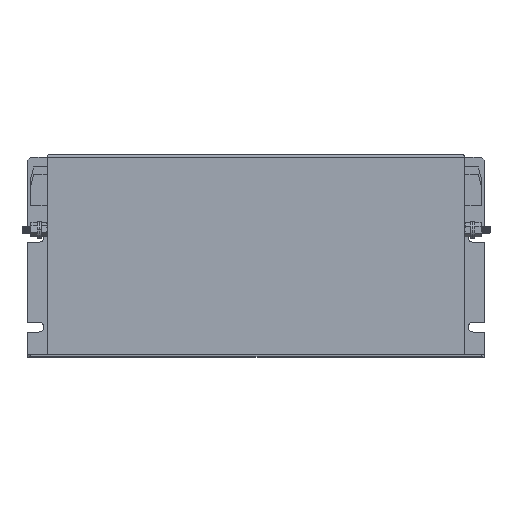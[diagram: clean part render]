
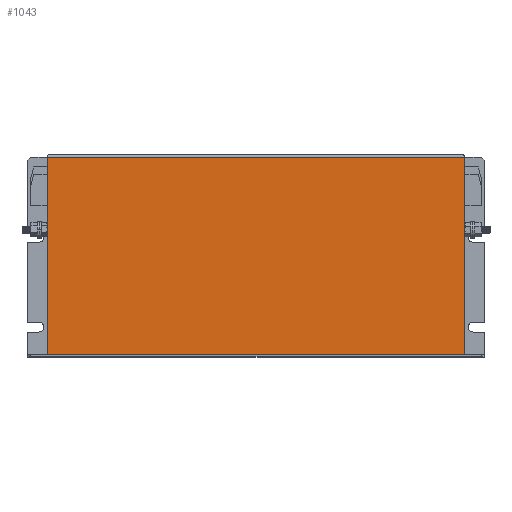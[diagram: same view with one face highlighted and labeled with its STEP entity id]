
A CAD part, top view. The second image highlights one B-rep face of the part: STEP entity #1043.
In plain terms, the highlighted planar face has unit normal (0, 0, 1).
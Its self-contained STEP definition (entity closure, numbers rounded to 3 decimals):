
#4 = ORIENTED_EDGE ( 'NONE', *, *, #18, .T. ) ;
#18 = EDGE_CURVE ( 'NONE', #1048, #929, #3780, .T. ) ;
#21 = ORIENTED_EDGE ( 'NONE', *, *, #876, .T. ) ;
#22 = ORIENTED_EDGE ( 'NONE', *, *, #928, .T. ) ;
#868 = VERTEX_POINT ( 'NONE', #5197 ) ;
#874 = VERTEX_POINT ( 'NONE', #5187 ) ;
#876 = EDGE_CURVE ( 'NONE', #868, #874, #3334, .T. ) ;
#928 = EDGE_CURVE ( 'NONE', #929, #868, #5701, .T. ) ;
#929 = VERTEX_POINT ( 'NONE', #5808 ) ;
#1043 = ADVANCED_FACE ( 'NONE', ( #6837 ), #6835, .F. ) ;
#1045 = EDGE_LOOP ( 'NONE', ( #1147, #4, #22, #21 ) ) ;
#1046 = EDGE_CURVE ( 'NONE', #1048, #874, #6833, .T. ) ;
#1048 = VERTEX_POINT ( 'NONE', #6820 ) ;
#1147 = ORIENTED_EDGE ( 'NONE', *, *, #1046, .F. ) ;
#3327 = CARTESIAN_POINT ( 'NONE',  ( 13., 1.5, 1.5 ) ) ;
#3334 = LINE ( 'NONE', #3327, #5577 ) ;
#3777 = DIRECTION ( 'NONE',  ( -1., 0., 0. ) ) ;
#3778 = VECTOR ( 'NONE', #3777, 1000. ) ;
#3779 = CARTESIAN_POINT ( 'NONE',  ( 13., 133.5, 1.5 ) ) ;
#3780 = LINE ( 'NONE', #3779, #3778 ) ;
#5187 = CARTESIAN_POINT ( 'NONE',  ( 292., 1.5, 1.5 ) ) ;
#5197 = CARTESIAN_POINT ( 'NONE',  ( 13., 1.5, 1.5 ) ) ;
#5575 = DIRECTION ( 'NONE',  ( 1., 0., 0. ) ) ;
#5577 = VECTOR ( 'NONE', #5575, 1000. ) ;
#5701 = LINE ( 'NONE', #5812, #5811 ) ;
#5808 = CARTESIAN_POINT ( 'NONE',  ( 13., 133.5, 1.5 ) ) ;
#5810 = DIRECTION ( 'NONE',  ( 0., -1., 0. ) ) ;
#5811 = VECTOR ( 'NONE', #5810, 1000. ) ;
#5812 = CARTESIAN_POINT ( 'NONE',  ( 13., 135., 1.5 ) ) ;
#6820 = CARTESIAN_POINT ( 'NONE',  ( 292., 133.5, 1.5 ) ) ;
#6821 = DIRECTION ( 'NONE',  ( 0., -1., 0. ) ) ;
#6822 = VECTOR ( 'NONE', #6821, 1000. ) ;
#6823 = CARTESIAN_POINT ( 'NONE',  ( 292., 135., 1.5 ) ) ;
#6827 = DIRECTION ( 'NONE',  ( -1., 0., 0. ) ) ;
#6830 = DIRECTION ( 'NONE',  ( 0., 0., -1. ) ) ;
#6831 = CARTESIAN_POINT ( 'NONE',  ( 13., 135., 1.5 ) ) ;
#6832 = AXIS2_PLACEMENT_3D ( 'NONE', #6831, #6830, #6827 ) ;
#6833 = LINE ( 'NONE', #6823, #6822 ) ;
#6835 = PLANE ( 'NONE',  #6832 ) ;
#6837 = FACE_OUTER_BOUND ( 'NONE', #1045, .T. ) ;
